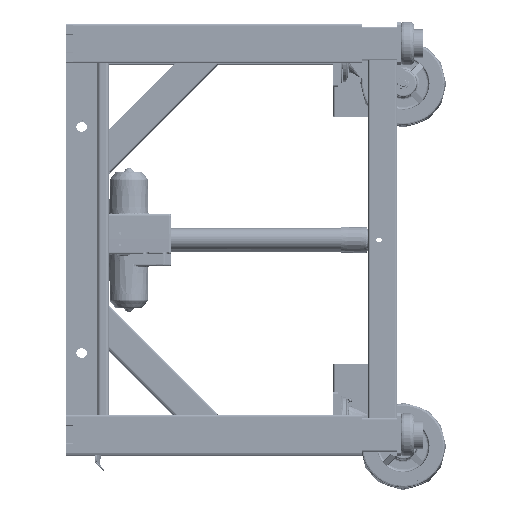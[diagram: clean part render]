
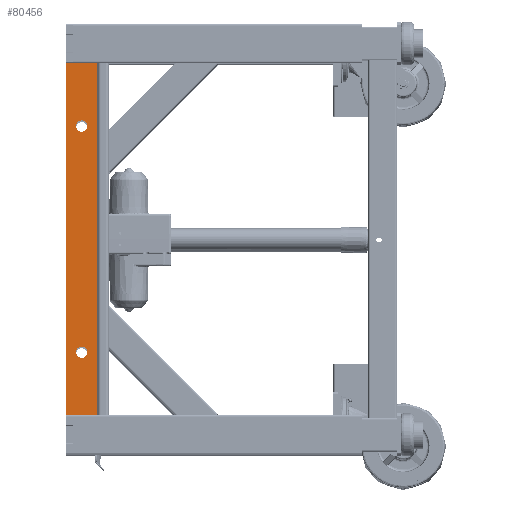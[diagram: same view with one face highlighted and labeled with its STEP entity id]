
A CAD part, top view. The second image highlights one B-rep face of the part: STEP entity #80456.
In plain terms, the highlighted planar face has unit normal (0, 0, 1).
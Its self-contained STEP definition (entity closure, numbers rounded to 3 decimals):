
#5082 = LINE ( 'NONE', #180960, #314168 ) ;
#5334 = LINE ( 'NONE', #53737, #28080 ) ;
#6408 = CARTESIAN_POINT ( 'NONE',  ( 195.197, 1272.35, 1934.284 ) ) ;
#7139 = EDGE_CURVE ( 'NONE', #259298, #143715, #227424, .T. ) ;
#11856 = FACE_OUTER_BOUND ( 'NONE', #167282, .T. ) ;
#14365 = CARTESIAN_POINT ( 'NONE',  ( 195.197, 650.35, 1934.284 ) ) ;
#15948 = LINE ( 'NONE', #14365, #278610 ) ;
#16599 = LINE ( 'NONE', #237626, #311968 ) ;
#17027 = EDGE_CURVE ( 'NONE', #273147, #273147, #137622, .T. ) ;
#23123 = DIRECTION ( 'NONE',  ( -1., 0., 0. ) ) ;
#24018 = CARTESIAN_POINT ( 'NONE',  ( 177.347, 761.35, 1934.284 ) ) ;
#25445 = VECTOR ( 'NONE', #27308, 1000. ) ;
#27308 = DIRECTION ( 'NONE',  ( -1., 0., 0. ) ) ;
#28080 = VECTOR ( 'NONE', #226321, 1000. ) ;
#30627 = DIRECTION ( 'NONE',  ( 0., -1., 0. ) ) ;
#41529 = VERTEX_POINT ( 'NONE', #241626 ) ;
#44305 = VERTEX_POINT ( 'NONE', #6408 ) ;
#46741 = VERTEX_POINT ( 'NONE', #24018 ) ;
#53737 = CARTESIAN_POINT ( 'NONE',  ( 139.497, 650.35, 1934.284 ) ) ;
#66920 = VERTEX_POINT ( 'NONE', #272672 ) ;
#74832 = CARTESIAN_POINT ( 'NONE',  ( 157.347, 1161.35, 1934.284 ) ) ;
#74903 = CIRCLE ( 'NONE', #275875, 10. ) ;
#77964 = CARTESIAN_POINT ( 'NONE',  ( 198.197, 748.35, 1934.284 ) ) ;
#79697 = VERTEX_POINT ( 'NONE', #302916 ) ;
#80456 = ADVANCED_FACE ( 'NONE', ( #110171, #316068, #11856 ), #241967, .T. ) ;
#80474 = ORIENTED_EDGE ( 'NONE', *, *, #186377, .T. ) ;
#81438 = EDGE_LOOP ( 'NONE', ( #91682 ) ) ;
#82601 = ORIENTED_EDGE ( 'NONE', *, *, #271221, .F. ) ;
#83072 = EDGE_CURVE ( 'NONE', #79697, #97583, #15948, .T. ) ;
#83455 = CARTESIAN_POINT ( 'NONE',  ( 139.497, 650.35, 1934.284 ) ) ;
#88104 = EDGE_CURVE ( 'NONE', #294297, #118781, #315402, .T. ) ;
#88464 = ORIENTED_EDGE ( 'NONE', *, *, #253585, .F. ) ;
#91682 = ORIENTED_EDGE ( 'NONE', *, *, #286578, .F. ) ;
#94944 = DIRECTION ( 'NONE',  ( 0., 0., 1. ) ) ;
#97583 = VERTEX_POINT ( 'NONE', #249612 ) ;
#102164 = DIRECTION ( 'NONE',  ( 0., 1., 0. ) ) ;
#105004 = DIRECTION ( 'NONE',  ( -1., 0., 0. ) ) ;
#106384 = VERTEX_POINT ( 'NONE', #307922 ) ;
#110171 = FACE_BOUND ( 'NONE', #81438, .T. ) ;
#113251 = CARTESIAN_POINT ( 'NONE',  ( 198.197, 1174.35, 1934.284 ) ) ;
#113423 = EDGE_CURVE ( 'NONE', #259298, #41529, #236687, .T. ) ;
#118781 = VERTEX_POINT ( 'NONE', #291203 ) ;
#119905 = EDGE_CURVE ( 'NONE', #317421, #79697, #5334, .T. ) ;
#124066 = DIRECTION ( 'NONE',  ( 1., 0., 0. ) ) ;
#126414 = DIRECTION ( 'NONE',  ( -1., 0., 0. ) ) ;
#137622 = CIRCLE ( 'NONE', #189344, 10. ) ;
#138189 = LINE ( 'NONE', #186692, #275235 ) ;
#139742 = DIRECTION ( 'NONE',  ( 0., -1., 0. ) ) ;
#140095 = VECTOR ( 'NONE', #313844, 1000. ) ;
#143059 = CARTESIAN_POINT ( 'NONE',  ( 198.197, 1198.35, 1934.284 ) ) ;
#143715 = VERTEX_POINT ( 'NONE', #113251 ) ;
#150349 = CARTESIAN_POINT ( 'NONE',  ( 198.197, 1198.35, 1934.284 ) ) ;
#152279 = VERTEX_POINT ( 'NONE', #301717 ) ;
#154424 = ORIENTED_EDGE ( 'NONE', *, *, #176055, .T. ) ;
#161017 = ORIENTED_EDGE ( 'NONE', *, *, #88104, .F. ) ;
#163860 = ORIENTED_EDGE ( 'NONE', *, *, #212204, .T. ) ;
#166708 = DIRECTION ( 'NONE',  ( 0., 1., 0. ) ) ;
#167152 = ORIENTED_EDGE ( 'NONE', *, *, #83072, .T. ) ;
#167282 = EDGE_LOOP ( 'NONE', ( #209002, #80474, #287831, #167152, #88464, #161017, #163860, #195546, #82601, #284730, #228156, #154424 ) ) ;
#176055 = EDGE_CURVE ( 'NONE', #41529, #44305, #190995, .T. ) ;
#179399 = AXIS2_PLACEMENT_3D ( 'NONE', #225681, #243513, #124066 ) ;
#180960 = CARTESIAN_POINT ( 'NONE',  ( 198.197, 1174.35, 1934.284 ) ) ;
#186377 = EDGE_CURVE ( 'NONE', #106384, #317421, #138189, .T. ) ;
#186692 = CARTESIAN_POINT ( 'NONE',  ( 139.497, 650.35, 1934.284 ) ) ;
#189344 = AXIS2_PLACEMENT_3D ( 'NONE', #248875, #197451, #23123 ) ;
#190995 = LINE ( 'NONE', #289161, #278574 ) ;
#193761 = VECTOR ( 'NONE', #241426, 1000. ) ;
#195546 = ORIENTED_EDGE ( 'NONE', *, *, #199377, .T. ) ;
#195619 = DIRECTION ( 'NONE',  ( -1., 0., 0. ) ) ;
#197451 = DIRECTION ( 'NONE',  ( 0., 0., 1. ) ) ;
#197687 = CARTESIAN_POINT ( 'NONE',  ( 198.197, 724.35, 1934.284 ) ) ;
#199377 = EDGE_CURVE ( 'NONE', #152279, #66920, #200725, .T. ) ;
#200725 = LINE ( 'NONE', #206735, #302746 ) ;
#206735 = CARTESIAN_POINT ( 'NONE',  ( 195.197, 650.35, 1934.284 ) ) ;
#209002 = ORIENTED_EDGE ( 'NONE', *, *, #297437, .T. ) ;
#212204 = EDGE_CURVE ( 'NONE', #294297, #152279, #234003, .T. ) ;
#215985 = DIRECTION ( 'NONE',  ( 0., 1., 0. ) ) ;
#218382 = EDGE_LOOP ( 'NONE', ( #229884 ) ) ;
#219506 = CARTESIAN_POINT ( 'NONE',  ( 198.197, 748.35, 1934.284 ) ) ;
#225681 = CARTESIAN_POINT ( 'NONE',  ( 167.347, 961.35, 1934.284 ) ) ;
#226321 = DIRECTION ( 'NONE',  ( 1., 0., 0. ) ) ;
#227424 = LINE ( 'NONE', #251544, #314391 ) ;
#228156 = ORIENTED_EDGE ( 'NONE', *, *, #113423, .T. ) ;
#229884 = ORIENTED_EDGE ( 'NONE', *, *, #17027, .F. ) ;
#234003 = LINE ( 'NONE', #77964, #284993 ) ;
#236687 = LINE ( 'NONE', #143059, #193761 ) ;
#237626 = CARTESIAN_POINT ( 'NONE',  ( 139.497, 1272.35, 1934.284 ) ) ;
#241426 = DIRECTION ( 'NONE',  ( -1., 0., 0. ) ) ;
#241626 = CARTESIAN_POINT ( 'NONE',  ( 195.197, 1198.35, 1934.284 ) ) ;
#241967 = PLANE ( 'NONE',  #179399 ) ;
#243513 = DIRECTION ( 'NONE',  ( 0., 0., 1. ) ) ;
#248267 = CARTESIAN_POINT ( 'NONE',  ( 198.197, 724.35, 1934.284 ) ) ;
#248875 = CARTESIAN_POINT ( 'NONE',  ( 167.347, 1161.35, 1934.284 ) ) ;
#249612 = CARTESIAN_POINT ( 'NONE',  ( 195.197, 724.35, 1934.284 ) ) ;
#251544 = CARTESIAN_POINT ( 'NONE',  ( 198.197, 1198.35, 1934.284 ) ) ;
#253020 = LINE ( 'NONE', #248267, #25445 ) ;
#253585 = EDGE_CURVE ( 'NONE', #118781, #97583, #253020, .T. ) ;
#259298 = VERTEX_POINT ( 'NONE', #150349 ) ;
#269058 = CARTESIAN_POINT ( 'NONE',  ( 167.347, 761.35, 1934.284 ) ) ;
#271221 = EDGE_CURVE ( 'NONE', #143715, #66920, #5082, .T. ) ;
#272672 = CARTESIAN_POINT ( 'NONE',  ( 195.197, 1174.35, 1934.284 ) ) ;
#273147 = VERTEX_POINT ( 'NONE', #74832 ) ;
#275235 = VECTOR ( 'NONE', #139742, 1000. ) ;
#275875 = AXIS2_PLACEMENT_3D ( 'NONE', #269058, #94944, #293336 ) ;
#278574 = VECTOR ( 'NONE', #166708, 1000. ) ;
#278610 = VECTOR ( 'NONE', #215985, 1000. ) ;
#284730 = ORIENTED_EDGE ( 'NONE', *, *, #7139, .F. ) ;
#284993 = VECTOR ( 'NONE', #126414, 1000. ) ;
#286578 = EDGE_CURVE ( 'NONE', #46741, #46741, #74903, .T. ) ;
#287831 = ORIENTED_EDGE ( 'NONE', *, *, #119905, .T. ) ;
#289161 = CARTESIAN_POINT ( 'NONE',  ( 195.197, 650.35, 1934.284 ) ) ;
#291203 = CARTESIAN_POINT ( 'NONE',  ( 198.197, 724.35, 1934.284 ) ) ;
#293336 = DIRECTION ( 'NONE',  ( 1., 0., 0. ) ) ;
#294297 = VERTEX_POINT ( 'NONE', #219506 ) ;
#297437 = EDGE_CURVE ( 'NONE', #44305, #106384, #16599, .T. ) ;
#301717 = CARTESIAN_POINT ( 'NONE',  ( 195.197, 748.35, 1934.284 ) ) ;
#302746 = VECTOR ( 'NONE', #102164, 1000. ) ;
#302916 = CARTESIAN_POINT ( 'NONE',  ( 195.197, 650.35, 1934.284 ) ) ;
#307922 = CARTESIAN_POINT ( 'NONE',  ( 139.497, 1272.35, 1934.284 ) ) ;
#311968 = VECTOR ( 'NONE', #195619, 1000. ) ;
#313844 = DIRECTION ( 'NONE',  ( 0., -1., 0. ) ) ;
#314168 = VECTOR ( 'NONE', #105004, 1000. ) ;
#314391 = VECTOR ( 'NONE', #30627, 1000. ) ;
#315402 = LINE ( 'NONE', #197687, #140095 ) ;
#316068 = FACE_BOUND ( 'NONE', #218382, .T. ) ;
#317421 = VERTEX_POINT ( 'NONE', #83455 ) ;
